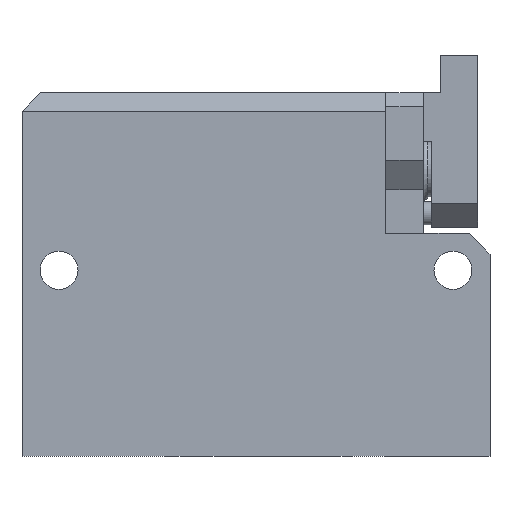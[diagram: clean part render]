
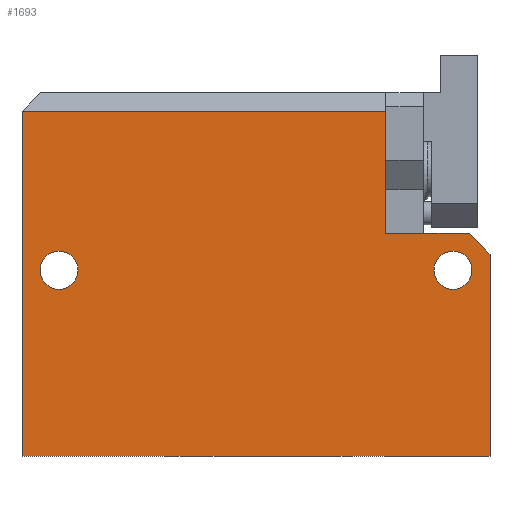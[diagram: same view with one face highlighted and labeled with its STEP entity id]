
A CAD part, left-side view. The second image highlights one B-rep face of the part: STEP entity #1693.
In plain terms, the highlighted planar face has unit normal (-1, 0, 0).
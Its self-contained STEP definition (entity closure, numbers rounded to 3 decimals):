
#42=PLANE('',#1823);
#105=LINE('',#2469,#252);
#113=LINE('',#2486,#260);
#128=LINE('',#2525,#275);
#137=LINE('',#2547,#284);
#150=LINE('',#2584,#297);
#156=LINE('',#2596,#303);
#157=LINE('',#2597,#304);
#252=VECTOR('',#2001,6.364);
#260=VECTOR('',#2013,18.);
#275=VECTOR('',#2048,78.5);
#284=VECTOR('',#2067,26.35);
#297=VECTOR('',#2100,101.);
#303=VECTOR('',#2112,43.65);
#304=VECTOR('',#2113,74.5);
#394=FACE_BOUND('',#574,.T.);
#395=FACE_BOUND('',#575,.T.);
#460=FACE_OUTER_BOUND('',#573,.T.);
#573=EDGE_LOOP('',(#1260,#1261,#1262,#1263,#1264,#1265,#1266));
#574=EDGE_LOOP('',(#1267));
#575=EDGE_LOOP('',(#1268));
#707=CIRCLE('',#1824,4.1);
#708=CIRCLE('',#1825,4.1);
#764=VERTEX_POINT('',#2467);
#765=VERTEX_POINT('',#2468);
#772=VERTEX_POINT('',#2485);
#783=VERTEX_POINT('',#2515);
#786=VERTEX_POINT('',#2522);
#807=VERTEX_POINT('',#2581);
#808=VERTEX_POINT('',#2583);
#812=VERTEX_POINT('',#2598);
#813=VERTEX_POINT('',#2600);
#927=EDGE_CURVE('',#764,#765,#105,.T.);
#935=EDGE_CURVE('',#772,#765,#113,.T.);
#954=EDGE_CURVE('',#786,#783,#128,.T.);
#965=EDGE_CURVE('',#786,#772,#137,.T.);
#984=EDGE_CURVE('',#808,#807,#150,.T.);
#991=EDGE_CURVE('',#764,#807,#156,.T.);
#992=EDGE_CURVE('',#783,#808,#157,.T.);
#993=EDGE_CURVE('',#812,#812,#707,.T.);
#994=EDGE_CURVE('',#813,#813,#708,.T.);
#1260=ORIENTED_EDGE('',*,*,#991,.F.);
#1261=ORIENTED_EDGE('',*,*,#927,.T.);
#1262=ORIENTED_EDGE('',*,*,#935,.F.);
#1263=ORIENTED_EDGE('',*,*,#965,.F.);
#1264=ORIENTED_EDGE('',*,*,#954,.T.);
#1265=ORIENTED_EDGE('',*,*,#992,.T.);
#1266=ORIENTED_EDGE('',*,*,#984,.T.);
#1267=ORIENTED_EDGE('',*,*,#993,.T.);
#1268=ORIENTED_EDGE('',*,*,#994,.T.);
#1693=ADVANCED_FACE('',(#460,#394,#395),#42,.F.);
#1823=AXIS2_PLACEMENT_3D('',#2595,#2110,#2111);
#1824=AXIS2_PLACEMENT_3D('',#2599,#2114,#2115);
#1825=AXIS2_PLACEMENT_3D('',#2601,#2116,#2117);
#2001=DIRECTION('',(0.,0.707,0.707));
#2013=DIRECTION('',(0.,-1.,0.));
#2048=DIRECTION('',(0.,1.,0.));
#2067=DIRECTION('',(0.,0.,-1.));
#2100=DIRECTION('',(0.,-1.,0.));
#2110=DIRECTION('center_axis',(1.,0.,0.));
#2111=DIRECTION('ref_axis',(0.,0.,-1.));
#2112=DIRECTION('',(0.,0.,-1.));
#2113=DIRECTION('',(0.,0.,-1.));
#2114=DIRECTION('center_axis',(1.,0.,0.));
#2115=DIRECTION('ref_axis',(0.,0.,-1.));
#2116=DIRECTION('center_axis',(1.,0.,0.));
#2117=DIRECTION('ref_axis',(0.,0.,-1.));
#2467=CARTESIAN_POINT('',(-22.,-50.5,3.5));
#2468=CARTESIAN_POINT('',(-22.,-46.,8.));
#2469=CARTESIAN_POINT('',(-22.,-50.5,3.5));
#2485=CARTESIAN_POINT('',(-22.,-28.,8.));
#2486=CARTESIAN_POINT('',(-22.,-28.,8.));
#2515=CARTESIAN_POINT('',(-22.,50.5,34.35));
#2522=CARTESIAN_POINT('',(-22.,-28.,34.35));
#2525=CARTESIAN_POINT('',(-22.,-28.,34.35));
#2547=CARTESIAN_POINT('',(-22.,-28.,34.35));
#2581=CARTESIAN_POINT('',(-22.,-50.5,-40.15));
#2583=CARTESIAN_POINT('',(-22.,50.5,-40.15));
#2584=CARTESIAN_POINT('',(-22.,50.5,-40.15));
#2595=CARTESIAN_POINT('Origin',(-22.,-50.5,38.35));
#2596=CARTESIAN_POINT('',(-22.,-50.5,3.5));
#2597=CARTESIAN_POINT('',(-22.,50.5,34.35));
#2598=CARTESIAN_POINT('',(-22.,-42.5,-4.1));
#2599=CARTESIAN_POINT('Origin',(-22.,-42.5,0.));
#2600=CARTESIAN_POINT('',(-22.,42.5,-4.1));
#2601=CARTESIAN_POINT('Origin',(-22.,42.5,0.));
